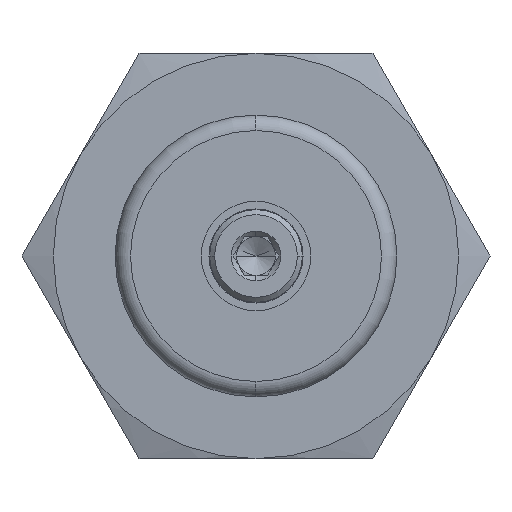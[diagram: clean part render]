
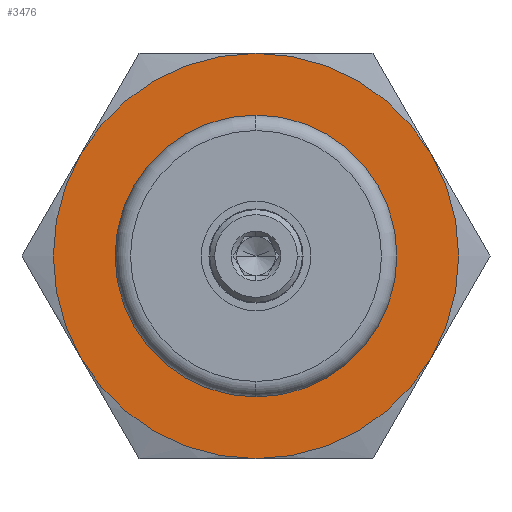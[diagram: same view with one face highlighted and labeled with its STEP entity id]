
A CAD part, left-side view. The second image highlights one B-rep face of the part: STEP entity #3476.
In plain terms, the highlighted planar face has unit normal (-1, 0, 0).
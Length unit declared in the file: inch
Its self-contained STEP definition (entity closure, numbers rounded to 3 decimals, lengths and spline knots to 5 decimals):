
#1993=CARTESIAN_POINT('',(-0.63,0.565,0.));
#1994=VERTEX_POINT('',#1993);
#2019=CARTESIAN_POINT('',(-0.63,-0.565,0.));
#2020=VERTEX_POINT('',#2019);
#2027=CARTESIAN_POINT('',(-0.63,0.0,0.));
#2028=DIRECTION('',(1.0,0.0,0.0));
#2029=DIRECTION('',(0.0,1.0,0.0));
#2030=AXIS2_PLACEMENT_3D('',#2027,#2028,#2029);
#2031=CIRCLE('',#2030,0.565);
#2032=EDGE_CURVE('',#1994,#2020,#2031,.T.);
#2840=CARTESIAN_POINT('',(-0.63,0.0,0.));
#2841=DIRECTION('',(1.0,0.0,0.0));
#2842=DIRECTION('',(0.0,1.0,0.0));
#2843=AXIS2_PLACEMENT_3D('',#2840,#2841,#2842);
#2844=CIRCLE('',#2843,0.565);
#2845=EDGE_CURVE('',#2020,#1994,#2844,.T.);
#2881=CARTESIAN_POINT('',(-0.63,0.70365,0.40625));
#2882=VERTEX_POINT('',#2881);
#2963=CARTESIAN_POINT('',(-0.63,0.70365,-0.40625));
#2964=VERTEX_POINT('',#2963);
#3027=CARTESIAN_POINT('',(-0.63,0.0,0.8125));
#3028=VERTEX_POINT('',#3027);
#3122=CARTESIAN_POINT('',(-0.63,0.0,-0.8125));
#3123=VERTEX_POINT('',#3122);
#3195=CARTESIAN_POINT('',(-0.63,-0.70365,-0.40625));
#3196=VERTEX_POINT('',#3195);
#3259=CARTESIAN_POINT('',(-0.63,-0.70365,0.40625));
#3260=VERTEX_POINT('',#3259);
#3297=CARTESIAN_POINT('',(-0.63,0.0,0.));
#3298=DIRECTION('',(-1.0,0.0,0.0));
#3299=DIRECTION('',(0.0,0.0,1.0));
#3300=AXIS2_PLACEMENT_3D('',#3297,#3298,#3299);
#3301=CIRCLE('',#3300,0.8125);
#3302=EDGE_CURVE('',#2964,#3123,#3301,.T.);
#3314=CARTESIAN_POINT('',(-0.63,0.0,0.));
#3315=DIRECTION('',(-1.0,0.0,0.0));
#3316=DIRECTION('',(0.0,0.0,1.0));
#3317=AXIS2_PLACEMENT_3D('',#3314,#3315,#3316);
#3318=CIRCLE('',#3317,0.8125);
#3319=EDGE_CURVE('',#3123,#3196,#3318,.T.);
#3331=CARTESIAN_POINT('',(-0.63,0.0,0.));
#3332=DIRECTION('',(-1.0,0.0,0.0));
#3333=DIRECTION('',(0.0,0.0,1.0));
#3334=AXIS2_PLACEMENT_3D('',#3331,#3332,#3333);
#3335=CIRCLE('',#3334,0.8125);
#3336=EDGE_CURVE('',#3196,#3260,#3335,.T.);
#3349=CARTESIAN_POINT('',(-0.63,0.0,0.));
#3350=DIRECTION('',(-1.0,0.0,0.0));
#3351=DIRECTION('',(0.0,0.0,1.0));
#3352=AXIS2_PLACEMENT_3D('',#3349,#3350,#3351);
#3353=CIRCLE('',#3352,0.8125);
#3354=EDGE_CURVE('',#3260,#3028,#3353,.T.);
#3366=CARTESIAN_POINT('',(-0.63,0.0,0.));
#3367=DIRECTION('',(-1.0,0.0,0.0));
#3368=DIRECTION('',(0.0,0.0,1.0));
#3369=AXIS2_PLACEMENT_3D('',#3366,#3367,#3368);
#3370=CIRCLE('',#3369,0.8125);
#3371=EDGE_CURVE('',#3028,#2882,#3370,.T.);
#3383=CARTESIAN_POINT('',(-0.63,0.0,0.));
#3384=DIRECTION('',(-1.0,0.0,0.0));
#3385=DIRECTION('',(0.0,0.0,1.0));
#3386=AXIS2_PLACEMENT_3D('',#3383,#3384,#3385);
#3387=CIRCLE('',#3386,0.8125);
#3388=EDGE_CURVE('',#2882,#2964,#3387,.T.);
#3459=CARTESIAN_POINT('',(-0.63,0.,0.));
#3460=DIRECTION('',(-1.0,0.0,0.0));
#3461=DIRECTION('',(0.0,0.0,1.0));
#3462=AXIS2_PLACEMENT_3D('',#3459,#3460,#3461);
#3463=PLANE('',#3462);
#3464=ORIENTED_EDGE('',*,*,#3302,.T.);
#3465=ORIENTED_EDGE('',*,*,#3319,.T.);
#3466=ORIENTED_EDGE('',*,*,#3336,.T.);
#3467=ORIENTED_EDGE('',*,*,#3354,.T.);
#3468=ORIENTED_EDGE('',*,*,#3371,.T.);
#3469=ORIENTED_EDGE('',*,*,#3388,.T.);
#3470=EDGE_LOOP('',(#3464,#3465,#3466,#3467,#3468,#3469));
#3471=FACE_OUTER_BOUND('',#3470,.T.);
#3472=ORIENTED_EDGE('',*,*,#2032,.T.);
#3473=ORIENTED_EDGE('',*,*,#2845,.T.);
#3474=EDGE_LOOP('',(#3472,#3473));
#3475=FACE_BOUND('',#3474,.T.);
#3476=ADVANCED_FACE('',(#3471,#3475),#3463,.T.);
